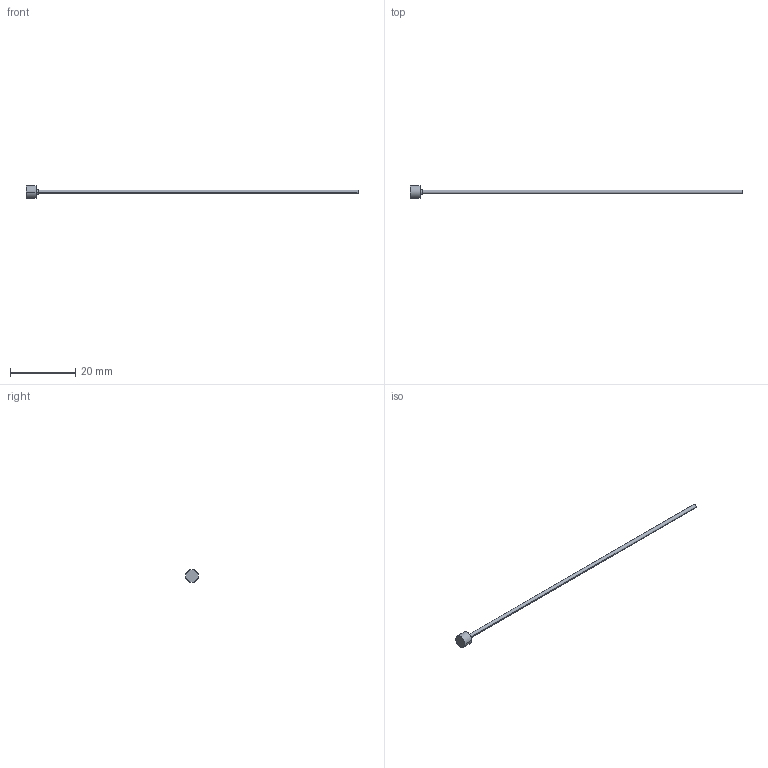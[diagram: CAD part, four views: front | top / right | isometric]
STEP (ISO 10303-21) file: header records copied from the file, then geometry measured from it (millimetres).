
FILE_DESCRIPTION (( 'STEP AP214' ), '1' );
FILE_NAME ('P4-4.STEP', '2020-03-11T13:37:31', ( '' ), ( '' ), 'SwSTEP 2.0', 'SolidWorks 2018', '' );
FILE_SCHEMA (( 'AUTOMOTIVE_DESIGN' ));
Length unit declared in the file: inch
Products named in the file (1): P4-4
Bounding box: 101.6 x 3.97 x 3.97 mm (x, y, z)
Volume: 147.9 mm3; surface area: 427.7 mm2
Topology: 1 solids, 1 shells, 13 faces, 24 edges, 14 vertices
Faces by surface type: cone 4, cylinder 4, plane 3, torus 2
Entity records: 366 total; most frequent: DIRECTION 68, CARTESIAN_POINT 52, ORIENTED_EDGE 48, AXIS2_PLACEMENT_3D 30, EDGE_CURVE 24, CIRCLE 16, VERTEX_POINT 14, EDGE_LOOP 14
